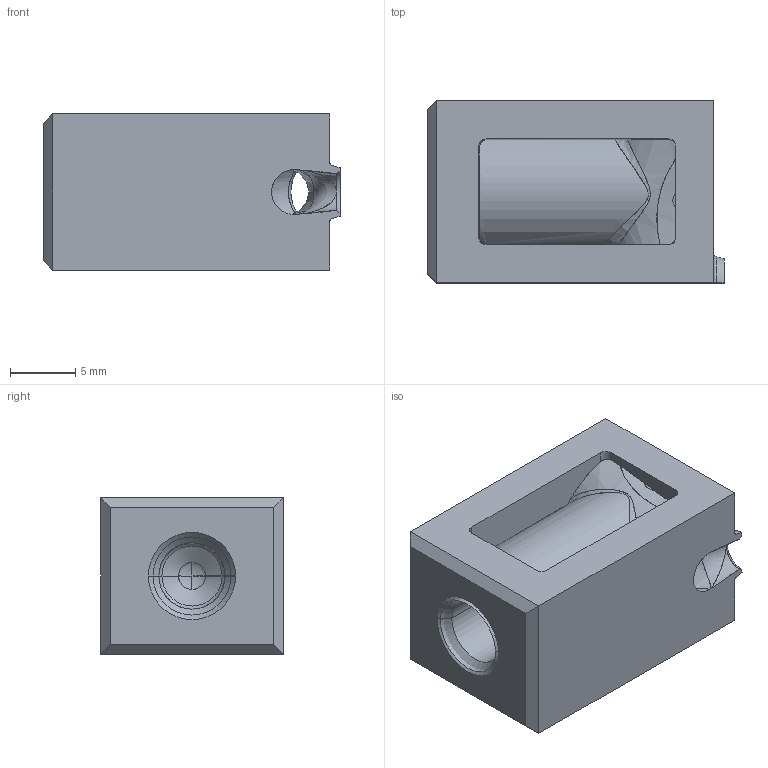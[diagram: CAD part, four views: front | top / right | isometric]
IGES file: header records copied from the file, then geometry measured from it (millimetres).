
Start section: START RECORD GO HERE.
Global section: file name: tgs14-28-s2.igs; native system: DASSAULT SYSTEMES CATIA V5 R20 - www.3ds.com; preprocessor: CATIA Version 5 Release 20 ; author: Utente; organization: NB04-ASUS; date: 20200418.085810; units: millimetre
Bounding box: 22.8 x 14 x 12 mm (x, y, z)
Surface area: 2226.4 mm2 (no closed solid volume)
Topology: 0 solids, 0 shells, 74 faces, 454 edges, 448 vertices
Faces by surface type: revolution 38, plane 21, bspline 15
